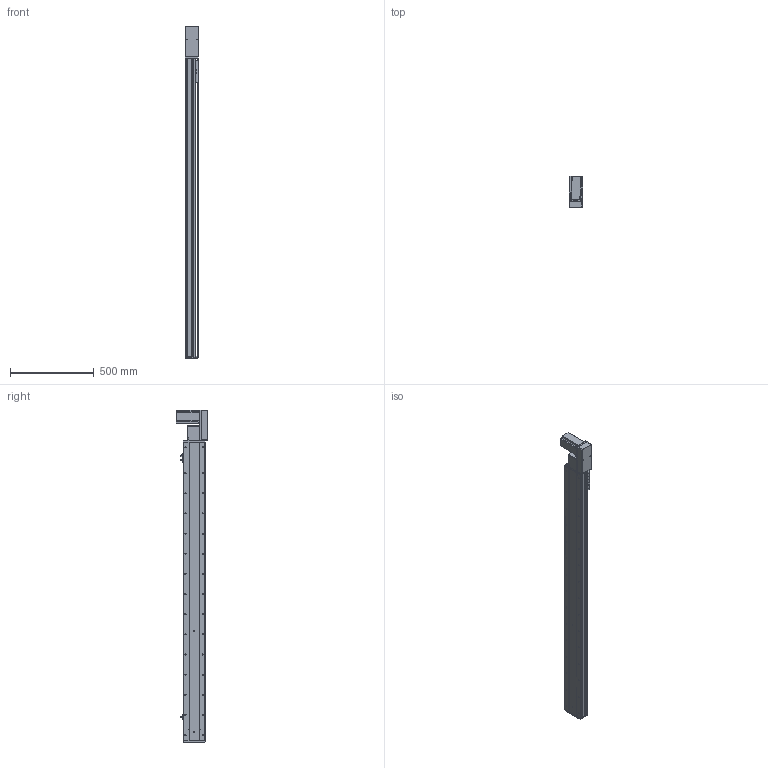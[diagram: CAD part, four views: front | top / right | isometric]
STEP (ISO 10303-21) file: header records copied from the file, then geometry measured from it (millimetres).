
FILE_DESCRIPTION (( 'STEP AP214' ), '1' );
FILE_NAME ('KSD130B-S1550-MLB-CM.STEP', '2019-11-14T03:14:56', ( '微软用户' ), ( '微软中国' ), 'SwSTEP 2.0', 'SolidWorks 2014', '' );
FILE_SCHEMA (( 'AUTOMOTIVE_DESIGN' ));
Length unit declared in the file: millimetre
Products named in the file (12): 130宽底板半封闭同步带-1550行程; KSD130B-S1550-MLB-CM; 台达ECMA－C20807AS伺服电机; 130宽模组保护罩上下左右折-同步带; 130宽模组马达安装板连板左右折同步带; 覜茼え100遵圉猾敕; U倰嫖萇EEㄜSX672; 130宽盖板半封闭同步带-1550行程; 130宽马达安装板同步带左-改; 130宽马达安装板同步带半封闭; 130宽同步带安装座半封闭; 130宽端盖同步带半封闭
Assembly tree (13 placements, depth 2):
  KSD130B-S1550-MLB-CM
    130宽底板半封闭同步带-1550行程
    130宽端盖同步带半封闭
    130宽同步带安装座半封闭
    130宽马达安装板同步带半封闭
    130宽马达安装板同步带左-改
    130宽盖板半封闭同步带-1550行程
    U倰嫖萇EEㄜSX672  x3
    覜茼え100遵圉猾敕
    130宽模组马达安装板连板左右折同步带
    130宽模组保护罩上下左右折-同步带
    台达ECMA－C20807AS伺服电机
Bounding box: 83.22 x 186.04 x 1977 mm (x, y, z)
Volume: 6472704.6 mm3; surface area: 1816900.8 mm2
Topology: 14 solids, 14 shells, 1667 faces, 4821 edges, 3061 vertices
Faces by surface type: cylinder 814, plane 642, cone 211
Entity records: 56199 total; most frequent: CARTESIAN_POINT 10734, DIRECTION 8491, ORIENTED_EDGE 8206, EDGE_CURVE 4103, AXIS2_PLACEMENT_3D 3118, VERTEX_POINT 2685, VECTOR 2255, LINE 2255
